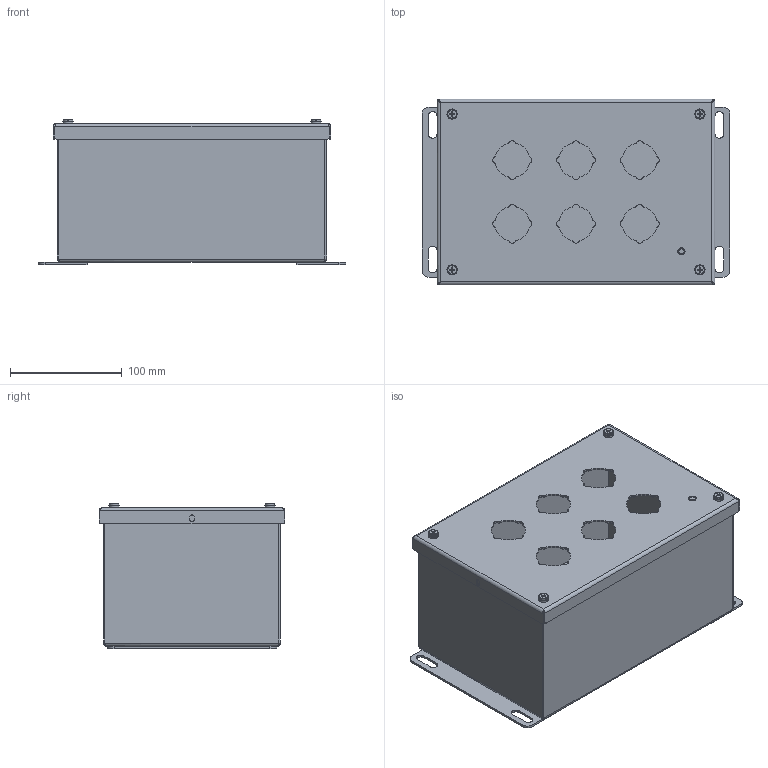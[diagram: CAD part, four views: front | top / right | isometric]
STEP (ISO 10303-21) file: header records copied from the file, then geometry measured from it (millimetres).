
FILE_DESCRIPTION((''),'2;1');
FILE_NAME('MODEL-335_ASM','2021-06-15T16:02:39',('chads'),('SAGINAW CONTROL & ENGINEERING'),'CREO PARAMETRIC BY PTC INC, 2017260','CREO PARAMETRIC BY PTC INC, 2017260','');
FILE_SCHEMA(('AUTOMOTIVE_DESIGN { 1 0 10303 214 1 1 1 1 }'));
Length unit declared in the file: inch
Products named in the file (10): MODEL-335-BDY; MODEL-335-DR; 100063; 102155; 101966; 100009; 100983; 102534; MODEL-335-GSKT; MODEL-335_ASM
Assembly tree (16 placements, depth 2):
  MODEL-335_ASM
    MODEL-335-BDY
    MODEL-335-DR
    100063
    102155  x2
    101966
    100009
    100983  x4
    102534  x4
    MODEL-335-GSKT
Bounding box: 276.23 x 166.69 x 130.14 mm (x, y, z)
Volume: 327115.2 mm3; surface area: 428304.1 mm2
Topology: 19 solids, 19 shells, 802 faces, 2019 edges, 1202 vertices
Faces by surface type: cylinder 318, plane 276, bspline 100, torus 80, cone 28
Entity records: 24660 total; most frequent: CARTESIAN_POINT 6051, DIRECTION 2619, ORIENTED_EDGE 2486, EDGE_CURVE 1243, PRESENTATION_STYLE_ASSIGNMENT 1155, STYLED_ITEM 1155, CURVE_STYLE 1079, AXIS2_PLACEMENT_3D 977
